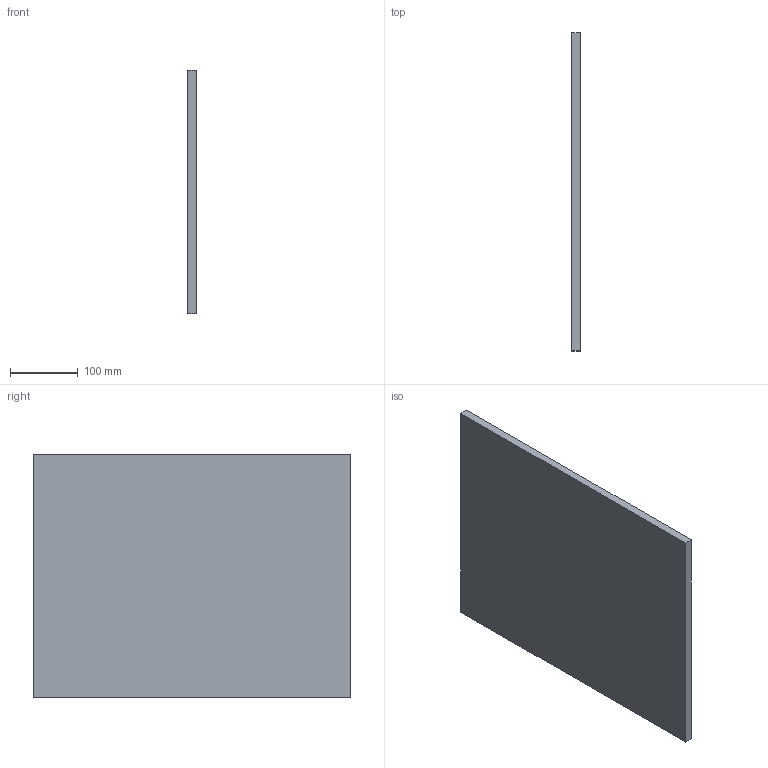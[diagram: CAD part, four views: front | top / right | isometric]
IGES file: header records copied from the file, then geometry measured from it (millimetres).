
Start section: Data from Parasolid IGES Translator 19.0.9, Copyright(c) 2006 Siemens PL M Software. All Rights Reserved.
Global section: file name: noorth-SI-H 36 D 47 W 1,2_9032.igs; native system: By Siemens PLM Incorporated; preprocessor: XPlus GENERIC/IGES 19.0.9; author: Noname; organization: Noname; date: 20200710.084354; units: metre
Bounding box: 12 x 470 x 360 mm (x, y, z)
Volume: 2030400 mm3; surface area: 358320 mm2
Topology: 1 solids, 1 shells, 6 faces, 12 edges, 8 vertices
Faces by surface type: plane 6
